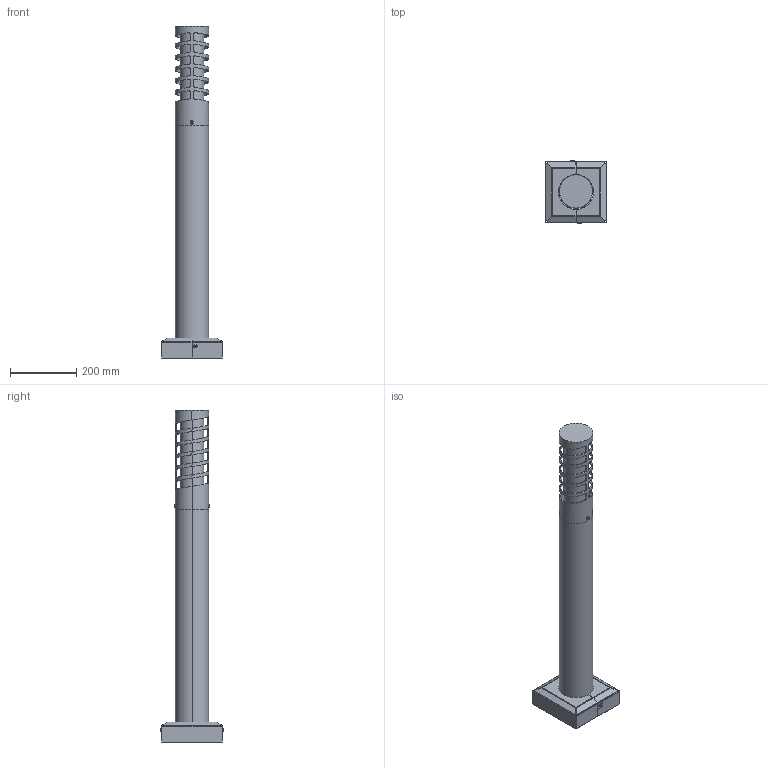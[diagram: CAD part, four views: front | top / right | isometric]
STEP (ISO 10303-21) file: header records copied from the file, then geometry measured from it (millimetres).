
FILE_DESCRIPTION (( 'STEP AP214' ), '1' );
FILE_NAME ('00-009118 ova-1-1(5)-4000Ê-(Ê170-130-4õ14)-ö+ïî.STEP', '2023-06-29T13:40:17', ( '' ), ( '' ), 'SwSTEP 2.0', 'SolidWorks 2020', '' );
FILE_SCHEMA (( 'AUTOMOTIVE_DESIGN' ));
Length unit declared in the file: millimetre
Products named in the file (9): Ï.2200.010.00.011_Ïëàòèê; ﾑ鸙 ova; Äåòàëü4^ova-1-1(5)-4000Ê-(Ê170-130-4õ14)-ö+ïî; Ï2200.010.00.010_Ïîëóêðûøêà (170-100); BS 170(Ä100)-ïî Äåêîðàòèòâíûé öîêîëü; 00-009118 ova-1-1(5)-4000Ê-(Ê170-130-4õ14)-ö+ïî; socket button head screw_iso_ISO 7380 - M6 x 10 --- 10N; Ï.2200.010.00.012_Ïîëóêðûøêà (170-100)
Assembly tree (13 placements, depth 4):
  00-009118 ova-1-1(5)-4000Ê-(Ê170-130-4õ14)-ö+ïî
    ﾑ鸙 ova
    Äåòàëü4^ova-1-1(5)-4000Ê-(Ê170-130-4õ14)-ö+ïî
    socket button head screw_iso_ISO 7380 - M6 x 10 --- 10N  x2
    BS 170(Ä100)-ïî Äåêîðàòèòâíûé öîêîëü
      Ï2200.010.00.010_Ïîëóêðûøêà (170-100)
        Ï.2200.010.00.012_Ïîëóêðûøêà (170-100)
        Ï.2200.010.00.011_Ïëàòèê
      Ï2200.010.00.010_Ïîëóêðûøêà (170-100)
        Ï.2200.010.00.012_Ïîëóêðûøêà (170-100)
        Ï.2200.010.00.011_Ïëàòèê
      socket button head screw_iso_ISO 7380 - M6 x 10 --- 10N  x2
Bounding box: 186 x 192.6 x 1000 mm (x, y, z)
Volume: 1183360.5 mm3; surface area: 873582.1 mm2
Topology: 15 solids, 15 shells, 420 faces, 1083 edges, 670 vertices
Faces by surface type: plane 195, cylinder 105, bspline 88, cone 16, torus 8, sphere 8
Entity records: 18757 total; most frequent: CARTESIAN_POINT 12170, ORIENTED_EDGE 1496, DIRECTION 986, EDGE_CURVE 748, VERTEX_POINT 479, AXIS2_PLACEMENT_3D 343, EDGE_LOOP 301, LINE 300
